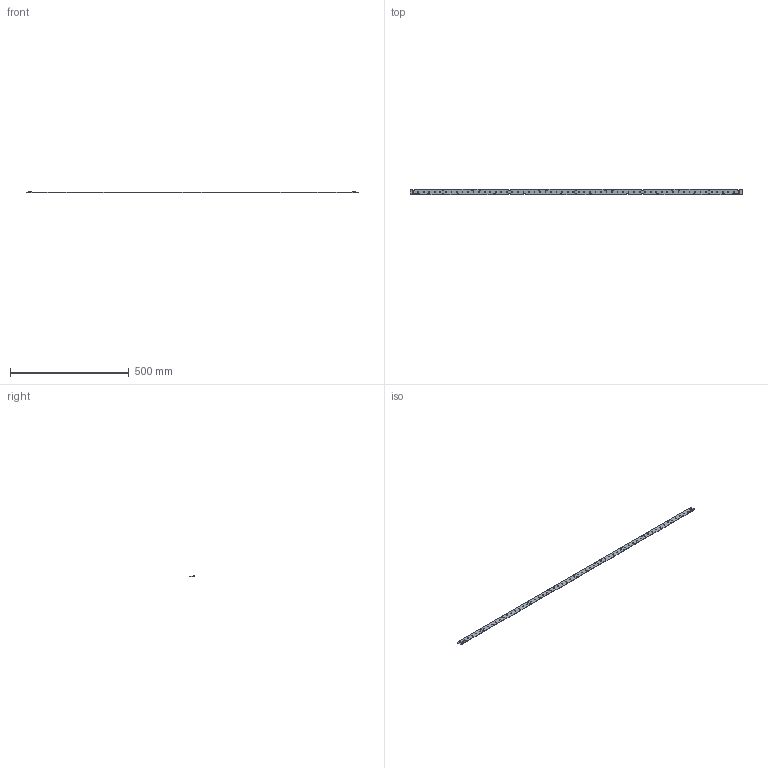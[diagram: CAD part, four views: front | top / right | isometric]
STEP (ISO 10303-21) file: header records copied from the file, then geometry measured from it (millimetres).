
FILE_DESCRIPTION((''),'2;1');
FILE_NAME('16208846_LLE-G5-5FT-HV-3250LM','2019-06-18T15:44:39',('bernhard.fink'),(''),'CREO PARAMETRIC BY PTC INC, 2017380','CREO PARAMETRIC BY PTC INC, 2017380','');
FILE_SCHEMA(('AUTOMOTIVE_DESIGN { 1 0 10303 214 1 1 1 1 }'));
Products named in the file (1): 16208846_LLE-G5-5FT-HV-3250LM
Bounding box: 1399 x 23.6 x 5.1 mm (x, y, z)
Volume: 53054.8 mm3; surface area: 71155.5 mm2
Topology: 61 solids, 63 shells, 1157 faces, 2882 edges, 1850 vertices
Faces by surface type: plane 687, cylinder 288, bspline 118, cone 34, torus 18, sphere 12
Entity records: 55038 total; most frequent: CARTESIAN_POINT 12390, ORIENTED_EDGE 5721, DIRECTION 4993, PRESENTATION_STYLE_ASSIGNMENT 3877, STYLED_ITEM 2934, CURVE_STYLE 2871, EDGE_CURVE 2871, VECTOR 1925
